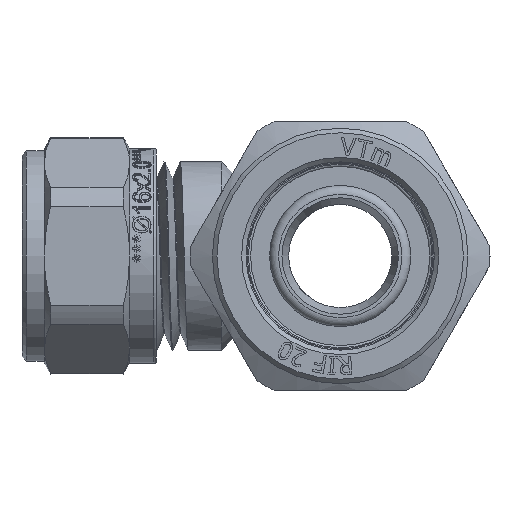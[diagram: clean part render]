
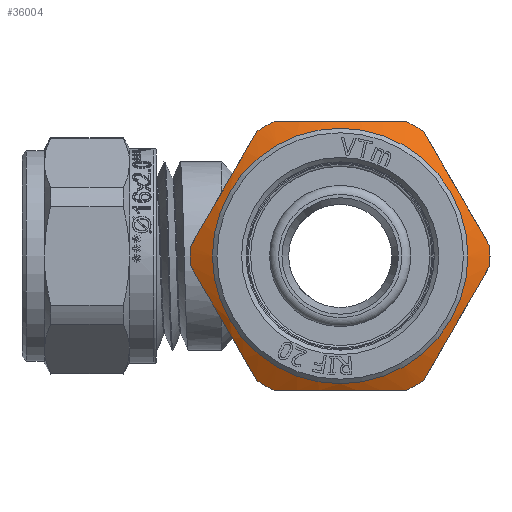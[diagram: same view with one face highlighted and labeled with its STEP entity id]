
A CAD part, left-side view. The second image highlights one B-rep face of the part: STEP entity #36004.
In plain terms, the highlighted conical face has half-angle 60 degrees and reference radius 15.484 mm.
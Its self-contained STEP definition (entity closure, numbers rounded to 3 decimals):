
#108=(
BOUNDED_CURVE()
B_SPLINE_CURVE(2,(#69551,#69552,#69553),.UNSPECIFIED.,.F.,.F.)
B_SPLINE_CURVE_WITH_KNOTS((3,3),(0.,1.489),.UNSPECIFIED.)
CURVE()
GEOMETRIC_REPRESENTATION_ITEM()
RATIONAL_B_SPLINE_CURVE((1.,1.114,1.))
REPRESENTATION_ITEM('')
);
#110=(
BOUNDED_CURVE()
B_SPLINE_CURVE(2,(#69564,#69565,#69566),.UNSPECIFIED.,.F.,.F.)
B_SPLINE_CURVE_WITH_KNOTS((3,3),(0.,1.489),.UNSPECIFIED.)
CURVE()
GEOMETRIC_REPRESENTATION_ITEM()
RATIONAL_B_SPLINE_CURVE((1.,1.114,1.))
REPRESENTATION_ITEM('')
);
#112=(
BOUNDED_CURVE()
B_SPLINE_CURVE(2,(#69577,#69578,#69579),.UNSPECIFIED.,.F.,.F.)
B_SPLINE_CURVE_WITH_KNOTS((3,3),(0.,1.489),.UNSPECIFIED.)
CURVE()
GEOMETRIC_REPRESENTATION_ITEM()
RATIONAL_B_SPLINE_CURVE((1.,1.114,1.))
REPRESENTATION_ITEM('')
);
#114=(
BOUNDED_CURVE()
B_SPLINE_CURVE(2,(#69590,#69591,#69592),.UNSPECIFIED.,.F.,.F.)
B_SPLINE_CURVE_WITH_KNOTS((3,3),(0.,1.489),.UNSPECIFIED.)
CURVE()
GEOMETRIC_REPRESENTATION_ITEM()
RATIONAL_B_SPLINE_CURVE((1.,1.114,1.))
REPRESENTATION_ITEM('')
);
#116=(
BOUNDED_CURVE()
B_SPLINE_CURVE(2,(#69603,#69604,#69605),.UNSPECIFIED.,.F.,.F.)
B_SPLINE_CURVE_WITH_KNOTS((3,3),(0.,1.489),.UNSPECIFIED.)
CURVE()
GEOMETRIC_REPRESENTATION_ITEM()
RATIONAL_B_SPLINE_CURVE((1.,1.114,1.))
REPRESENTATION_ITEM('')
);
#118=(
BOUNDED_CURVE()
B_SPLINE_CURVE(2,(#69616,#69617,#69618),.UNSPECIFIED.,.F.,.F.)
B_SPLINE_CURVE_WITH_KNOTS((3,3),(0.,1.489),.UNSPECIFIED.)
CURVE()
GEOMETRIC_REPRESENTATION_ITEM()
RATIONAL_B_SPLINE_CURVE((1.,1.114,1.))
REPRESENTATION_ITEM('')
);
#1950=LINE('',#70821,#4330);
#4330=VECTOR('',#42129,15.484);
#5328=CONICAL_SURFACE('',#37693,15.484,1.047);
#7695=FACE_OUTER_BOUND('',#9768,.T.);
#9768=EDGE_LOOP('',(#29993,#29994,#29995,#29996,#29997,#29998,#29999,#30000,
#30001,#30002,#30003,#30004,#30005,#30006,#30007,#30008,#30009));
#13188=CIRCLE('',#37694,16.717);
#13189=CIRCLE('',#37695,16.717);
#13190=CIRCLE('',#37696,14.25);
#13191=CIRCLE('',#37697,14.25);
#13192=CIRCLE('',#37698,16.717);
#13193=CIRCLE('',#37699,16.717);
#13194=CIRCLE('',#37700,16.717);
#13195=CIRCLE('',#37701,16.717);
#13196=CIRCLE('',#37702,16.717);
#15889=VERTEX_POINT('',#69548);
#15890=VERTEX_POINT('',#69550);
#15893=VERTEX_POINT('',#69561);
#15894=VERTEX_POINT('',#69563);
#15897=VERTEX_POINT('',#69574);
#15898=VERTEX_POINT('',#69576);
#15901=VERTEX_POINT('',#69587);
#15902=VERTEX_POINT('',#69589);
#15905=VERTEX_POINT('',#69600);
#15906=VERTEX_POINT('',#69602);
#15909=VERTEX_POINT('',#69613);
#15910=VERTEX_POINT('',#69615);
#16125=VERTEX_POINT('',#70818);
#16126=VERTEX_POINT('',#70820);
#16127=VERTEX_POINT('',#70822);
#20711=EDGE_CURVE('',#15890,#15889,#108,.T.);
#20715=EDGE_CURVE('',#15894,#15893,#110,.T.);
#20719=EDGE_CURVE('',#15898,#15897,#112,.T.);
#20723=EDGE_CURVE('',#15902,#15901,#114,.T.);
#20727=EDGE_CURVE('',#15906,#15905,#116,.T.);
#20731=EDGE_CURVE('',#15910,#15909,#118,.T.);
#21054=EDGE_CURVE('',#15910,#15889,#13188,.T.);
#21055=EDGE_CURVE('',#16125,#15909,#13189,.T.);
#21056=EDGE_CURVE('',#16125,#16126,#1950,.T.);
#21057=EDGE_CURVE('',#16126,#16127,#13190,.T.);
#21058=EDGE_CURVE('',#16127,#16126,#13191,.T.);
#21059=EDGE_CURVE('',#15906,#16125,#13192,.T.);
#21060=EDGE_CURVE('',#15902,#15905,#13193,.T.);
#21061=EDGE_CURVE('',#15898,#15901,#13194,.T.);
#21062=EDGE_CURVE('',#15894,#15897,#13195,.T.);
#21063=EDGE_CURVE('',#15890,#15893,#13196,.T.);
#29993=ORIENTED_EDGE('',*,*,#20711,.T.);
#29994=ORIENTED_EDGE('',*,*,#21054,.F.);
#29995=ORIENTED_EDGE('',*,*,#20731,.T.);
#29996=ORIENTED_EDGE('',*,*,#21055,.F.);
#29997=ORIENTED_EDGE('',*,*,#21056,.T.);
#29998=ORIENTED_EDGE('',*,*,#21057,.T.);
#29999=ORIENTED_EDGE('',*,*,#21058,.T.);
#30000=ORIENTED_EDGE('',*,*,#21056,.F.);
#30001=ORIENTED_EDGE('',*,*,#21059,.F.);
#30002=ORIENTED_EDGE('',*,*,#20727,.T.);
#30003=ORIENTED_EDGE('',*,*,#21060,.F.);
#30004=ORIENTED_EDGE('',*,*,#20723,.T.);
#30005=ORIENTED_EDGE('',*,*,#21061,.F.);
#30006=ORIENTED_EDGE('',*,*,#20719,.T.);
#30007=ORIENTED_EDGE('',*,*,#21062,.F.);
#30008=ORIENTED_EDGE('',*,*,#20715,.T.);
#30009=ORIENTED_EDGE('',*,*,#21063,.F.);
#36004=ADVANCED_FACE('',(#7695),#5328,.T.);
#37693=AXIS2_PLACEMENT_3D('',#70816,#42123,#42124);
#37694=AXIS2_PLACEMENT_3D('',#70817,#42125,#42126);
#37695=AXIS2_PLACEMENT_3D('',#70819,#42127,#42128);
#37696=AXIS2_PLACEMENT_3D('',#70823,#42130,#42131);
#37697=AXIS2_PLACEMENT_3D('',#70824,#42132,#42133);
#37698=AXIS2_PLACEMENT_3D('',#70825,#42134,#42135);
#37699=AXIS2_PLACEMENT_3D('',#70826,#42136,#42137);
#37700=AXIS2_PLACEMENT_3D('',#70827,#42138,#42139);
#37701=AXIS2_PLACEMENT_3D('',#70828,#42140,#42141);
#37702=AXIS2_PLACEMENT_3D('',#70829,#42142,#42143);
#42123=DIRECTION('center_axis',(1.,0.,0.));
#42124=DIRECTION('ref_axis',(0.,1.,0.));
#42125=DIRECTION('center_axis',(1.,0.,0.));
#42126=DIRECTION('ref_axis',(0.,0.,1.));
#42127=DIRECTION('center_axis',(1.,0.,0.));
#42128=DIRECTION('ref_axis',(0.,0.,1.));
#42129=DIRECTION('',(-0.5,0.866,0.));
#42130=DIRECTION('center_axis',(1.,0.,0.));
#42131=DIRECTION('ref_axis',(0.,0.,1.));
#42132=DIRECTION('center_axis',(1.,0.,0.));
#42133=DIRECTION('ref_axis',(0.,0.,1.));
#42134=DIRECTION('center_axis',(1.,0.,0.));
#42135=DIRECTION('ref_axis',(0.,0.,1.));
#42136=DIRECTION('center_axis',(1.,0.,0.));
#42137=DIRECTION('ref_axis',(0.,0.,1.));
#42138=DIRECTION('center_axis',(1.,0.,0.));
#42139=DIRECTION('ref_axis',(0.,0.,1.));
#42140=DIRECTION('center_axis',(1.,0.,0.));
#42141=DIRECTION('ref_axis',(0.,0.,1.));
#42142=DIRECTION('center_axis',(1.,0.,0.));
#42143=DIRECTION('ref_axis',(0.,0.,1.));
#69548=CARTESIAN_POINT('',(-34.032,-7.38,-15.));
#69550=CARTESIAN_POINT('',(-34.032,7.38,-15.));
#69551=CARTESIAN_POINT('Ctrl Pts',(-34.032,7.38,-15.));
#69552=CARTESIAN_POINT('Ctrl Pts',(-35.913,0.,
-15.));
#69553=CARTESIAN_POINT('Ctrl Pts',(-34.032,-7.38,
-15.));
#69561=CARTESIAN_POINT('',(-34.032,9.3,-13.892));
#69563=CARTESIAN_POINT('',(-34.032,16.681,-1.108));
#69564=CARTESIAN_POINT('Ctrl Pts',(-34.032,16.681,-1.108));
#69565=CARTESIAN_POINT('Ctrl Pts',(-35.913,12.99,-7.5));
#69566=CARTESIAN_POINT('Ctrl Pts',(-34.032,9.3,-13.892));
#69574=CARTESIAN_POINT('',(-34.032,16.681,1.108));
#69576=CARTESIAN_POINT('',(-34.032,9.3,13.892));
#69577=CARTESIAN_POINT('Ctrl Pts',(-34.032,9.3,13.892));
#69578=CARTESIAN_POINT('Ctrl Pts',(-35.913,12.99,7.5));
#69579=CARTESIAN_POINT('Ctrl Pts',(-34.032,16.681,1.108));
#69587=CARTESIAN_POINT('',(-34.032,7.38,15.));
#69589=CARTESIAN_POINT('',(-34.032,-7.38,15.));
#69590=CARTESIAN_POINT('Ctrl Pts',(-34.032,-7.38,
15.));
#69591=CARTESIAN_POINT('Ctrl Pts',(-35.913,0.,
15.));
#69592=CARTESIAN_POINT('Ctrl Pts',(-34.032,7.38,15.));
#69600=CARTESIAN_POINT('',(-34.032,-9.3,13.892));
#69602=CARTESIAN_POINT('',(-34.032,-16.681,1.108));
#69603=CARTESIAN_POINT('Ctrl Pts',(-34.032,-16.681,
1.108));
#69604=CARTESIAN_POINT('Ctrl Pts',(-35.913,-12.99,
7.5));
#69605=CARTESIAN_POINT('Ctrl Pts',(-34.032,-9.3,
13.892));
#69613=CARTESIAN_POINT('',(-34.032,-16.681,-1.108));
#69615=CARTESIAN_POINT('',(-34.032,-9.3,-13.892));
#69616=CARTESIAN_POINT('Ctrl Pts',(-34.032,-9.3,
-13.892));
#69617=CARTESIAN_POINT('Ctrl Pts',(-35.913,-12.99,-7.5));
#69618=CARTESIAN_POINT('Ctrl Pts',(-34.032,-16.681,
-1.108));
#70816=CARTESIAN_POINT('Origin',(-34.744,0.,
0.));
#70817=CARTESIAN_POINT('Origin',(-34.032,0.,
0.));
#70818=CARTESIAN_POINT('',(-34.032,-16.717,0.));
#70819=CARTESIAN_POINT('Origin',(-34.032,0.,
0.));
#70820=CARTESIAN_POINT('',(-35.457,-14.25,0.));
#70821=CARTESIAN_POINT('',(-34.744,-15.484,0.));
#70822=CARTESIAN_POINT('',(-35.457,14.25,0.));
#70823=CARTESIAN_POINT('Origin',(-35.457,0.,
0.));
#70824=CARTESIAN_POINT('Origin',(-35.457,0.,
0.));
#70825=CARTESIAN_POINT('Origin',(-34.032,0.,
0.));
#70826=CARTESIAN_POINT('Origin',(-34.032,0.,
0.));
#70827=CARTESIAN_POINT('Origin',(-34.032,0.,
0.));
#70828=CARTESIAN_POINT('Origin',(-34.032,0.,
0.));
#70829=CARTESIAN_POINT('Origin',(-34.032,0.,
0.));
